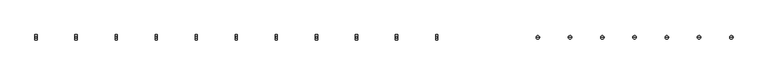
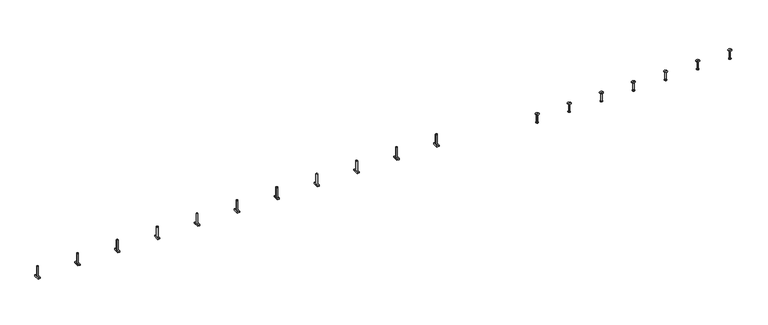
"""IFC4 building model written with IfcOpenShell, lengths in millimetres: fastener geometry, JTA-W JORDAHL® AnchorChannels : JTA-W L=6000 mm."""

from ifc_helpers import new_model, si_unit, frame, origin, place, context, project, spatial, polyline, circle_curve, source, transform, mapped, element, save
from ifc_brep_helpers import plane_surface, cylinder_surface, revolved_surface, advanced_brep


def fastener_32b4dd40(model_context):
    return source(origin(), model_context, "Body", "AdvancedBrep", [
        advanced_brep(
        [(3470.3421053, -20.7, -4.0), (3470.3421053, -20.7, -14.0), (3470.3421053, 20.7, -14.0), (3470.3421053, 20.7, -4.0), (3453.3421053, -20.7, -4.0), (3453.3421053, 20.7, -4.0), (3453.3421053, 20.7, -14.0), (3453.3421053, -20.7, -14.0), (3467.8421053, 0.0, -4.0), (3455.8421053, 0.0, -4.0), (3455.8421053, 0.0, 76.0), (3467.8421053, 0.0, 76.0)],
        [
            (0, 1),
            (1, 2),
            (2, 3),
            (3, 0),
            (4, 5),
            (5, 6),
            (6, 7),
            (7, 4),
            (3, 5),
            (4, 0),
            (8, 9, circle_curve(frame((3461.8421053, 0.0, -4.0), z_axis=(0.0, 0.0, -1.0), x_axis=(1.0, 0.0, 0.0)), 6.0)),
            (9, 8, circle_curve(frame((3461.8421053, 0.0, -4.0), z_axis=(0.0, 0.0, -1.0), x_axis=(1.0, 0.0, 0.0)), 6.0)),
            (2, 6),
            (1, 7),
            (10, 11, circle_curve(frame((3461.8421053, 0.0, 76.0), z_axis=(0.0, 0.0, 1.0), x_axis=(1.0, 0.0, 0.0)), 6.0)),
            (11, 10, circle_curve(frame((3461.8421053, 0.0, 76.0), z_axis=(0.0, 0.0, 1.0), x_axis=(1.0, 0.0, 0.0)), 6.0)),
            (11, 8),
            (9, 10),
        ],
        [
            plane_surface(frame((3470.3421053, 20.7, -4.0), z_axis=(1.0, 0.0, 0.0), x_axis=(0.0, 1.0, 0.0))),
            plane_surface(frame((3453.3421053, 20.7, -4.0), z_axis=(-1.0, 0.0, 0.0), x_axis=(0.0, -1.0, 0.0))),
            plane_surface(frame((3470.3421053, -20.7, -4.0), z_axis=(0.0, 0.0, 1.0), x_axis=(-1.0, 0.0, 0.0))),
            plane_surface(frame((3470.3421053, 20.7, -4.0), z_axis=(0.0, 1.0, 0.0), x_axis=(-1.0, 0.0, 0.0))),
            plane_surface(frame((3470.3421053, 20.7, -14.0), z_axis=(0.0, 0.0, -1.0), x_axis=(-1.0, 0.0, 0.0))),
            plane_surface(frame((3470.3421053, -20.7, -14.0), z_axis=(0.0, -1.0, 0.0), x_axis=(-1.0, 0.0, 0.0))),
            plane_surface(frame((3467.8421053, 0.0, 76.0), z_axis=(0.0, 0.0, 1.0), x_axis=(0.0, -1.0, 0.0))),
            cylinder_surface(frame((3461.8421053, 0.0, -4.0), z_axis=(0.0, 0.0, 1.0), x_axis=(1.0, 0.0, 0.0)), 6.0),
        ],
        [
            (0, [[1, 2, 3, 4]]),
            (1, [[5, 6, 7, 8]]),
            (2, [[9, -5, 10, -4], [11, 12]]),
            (3, [[13, -6, -9, -3]]),
            (4, [[14, -7, -13, -2]]),
            (5, [[-10, -8, -14, -1]]),
            (6, [[15, 16]]),
            (7, [[17, -12, 18, -16]]),
            (7, [[-18, -11, -17, -15]]),
        ],
    ),
        advanced_brep(
        [(3162.4473684, -20.7, -4.0), (3162.4473684, -20.7, -14.0), (3162.4473684, 20.7, -14.0), (3162.4473684, 20.7, -4.0), (3145.4473684, -20.7, -4.0), (3145.4473684, 20.7, -4.0), (3145.4473684, 20.7, -14.0), (3145.4473684, -20.7, -14.0), (3159.9473684, 0.0, -4.0), (3147.9473684, 0.0, -4.0), (3147.9473684, 0.0, 76.0), (3159.9473684, 0.0, 76.0)],
        [
            (0, 1),
            (1, 2),
            (2, 3),
            (3, 0),
            (4, 5),
            (5, 6),
            (6, 7),
            (7, 4),
            (3, 5),
            (4, 0),
            (8, 9, circle_curve(frame((3153.9473684, 0.0, -4.0), z_axis=(0.0, 0.0, -1.0), x_axis=(1.0, 0.0, 0.0)), 6.0)),
            (9, 8, circle_curve(frame((3153.9473684, 0.0, -4.0), z_axis=(0.0, 0.0, -1.0), x_axis=(1.0, 0.0, 0.0)), 6.0)),
            (2, 6),
            (1, 7),
            (10, 11, circle_curve(frame((3153.9473684, 0.0, 76.0), z_axis=(0.0, 0.0, 1.0), x_axis=(1.0, 0.0, 0.0)), 6.0)),
            (11, 10, circle_curve(frame((3153.9473684, 0.0, 76.0), z_axis=(0.0, 0.0, 1.0), x_axis=(1.0, 0.0, 0.0)), 6.0)),
            (11, 8),
            (9, 10),
        ],
        [
            plane_surface(frame((3162.4473684, 20.7, -4.0), z_axis=(1.0, 0.0, 0.0), x_axis=(0.0, 1.0, 0.0))),
            plane_surface(frame((3145.4473684, 20.7, -4.0), z_axis=(-1.0, 0.0, 0.0), x_axis=(0.0, -1.0, 0.0))),
            plane_surface(frame((3162.4473684, -20.7, -4.0), z_axis=(0.0, 0.0, 1.0), x_axis=(-1.0, 0.0, 0.0))),
            plane_surface(frame((3162.4473684, 20.7, -4.0), z_axis=(0.0, 1.0, 0.0), x_axis=(-1.0, 0.0, 0.0))),
            plane_surface(frame((3162.4473684, 20.7, -14.0), z_axis=(0.0, 0.0, -1.0), x_axis=(-1.0, 0.0, 0.0))),
            plane_surface(frame((3162.4473684, -20.7, -14.0), z_axis=(0.0, -1.0, 0.0), x_axis=(-1.0, 0.0, 0.0))),
            plane_surface(frame((3159.9473684, 0.0, 76.0), z_axis=(0.0, 0.0, 1.0), x_axis=(0.0, -1.0, 0.0))),
            cylinder_surface(frame((3153.9473684, 0.0, -4.0), z_axis=(0.0, 0.0, 1.0), x_axis=(1.0, 0.0, 0.0)), 6.0),
        ],
        [
            (0, [[1, 2, 3, 4]]),
            (1, [[5, 6, 7, 8]]),
            (2, [[9, -5, 10, -4], [11, 12]]),
            (3, [[13, -6, -9, -3]]),
            (4, [[14, -7, -13, -2]]),
            (5, [[-10, -8, -14, -1]]),
            (6, [[15, 16]]),
            (7, [[17, -12, 18, -16]]),
            (7, [[-18, -11, -17, -15]]),
        ],
    ),
        advanced_brep(
        [(2854.5526316, -20.7, -4.0), (2854.5526316, -20.7, -14.0), (2854.5526316, 20.7, -14.0), (2854.5526316, 20.7, -4.0), (2837.5526316, -20.7, -4.0), (2837.5526316, 20.7, -4.0), (2837.5526316, 20.7, -14.0), (2837.5526316, -20.7, -14.0), (2852.0526316, 0.0, -4.0), (2840.0526316, 0.0, -4.0), (2840.0526316, 0.0, 76.0), (2852.0526316, 0.0, 76.0)],
        [
            (0, 1),
            (1, 2),
            (2, 3),
            (3, 0),
            (4, 5),
            (5, 6),
            (6, 7),
            (7, 4),
            (3, 5),
            (4, 0),
            (8, 9, circle_curve(frame((2846.0526316, 0.0, -4.0), z_axis=(0.0, 0.0, -1.0), x_axis=(1.0, 0.0, 0.0)), 6.0)),
            (9, 8, circle_curve(frame((2846.0526316, 0.0, -4.0), z_axis=(0.0, 0.0, -1.0), x_axis=(1.0, 0.0, 0.0)), 6.0)),
            (2, 6),
            (1, 7),
            (10, 11, circle_curve(frame((2846.0526316, 0.0, 76.0), z_axis=(0.0, 0.0, 1.0), x_axis=(1.0, 0.0, 0.0)), 6.0)),
            (11, 10, circle_curve(frame((2846.0526316, 0.0, 76.0), z_axis=(0.0, 0.0, 1.0), x_axis=(1.0, 0.0, 0.0)), 6.0)),
            (11, 8),
            (9, 10),
        ],
        [
            plane_surface(frame((2854.5526316, 20.7, -4.0), z_axis=(1.0, 0.0, 0.0), x_axis=(0.0, 1.0, 0.0))),
            plane_surface(frame((2837.5526316, 20.7, -4.0), z_axis=(-1.0, 0.0, 0.0), x_axis=(0.0, -1.0, 0.0))),
            plane_surface(frame((2854.5526316, -20.7, -4.0), z_axis=(0.0, 0.0, 1.0), x_axis=(-1.0, 0.0, 0.0))),
            plane_surface(frame((2854.5526316, 20.7, -4.0), z_axis=(0.0, 1.0, 0.0), x_axis=(-1.0, 0.0, 0.0))),
            plane_surface(frame((2854.5526316, 20.7, -14.0), z_axis=(0.0, 0.0, -1.0), x_axis=(-1.0, 0.0, 0.0))),
            plane_surface(frame((2854.5526316, -20.7, -14.0), z_axis=(0.0, -1.0, 0.0), x_axis=(-1.0, 0.0, 0.0))),
            plane_surface(frame((2852.0526316, 0.0, 76.0), z_axis=(0.0, 0.0, 1.0), x_axis=(0.0, -1.0, 0.0))),
            cylinder_surface(frame((2846.0526316, 0.0, -4.0), z_axis=(0.0, 0.0, 1.0), x_axis=(1.0, 0.0, 0.0)), 6.0),
        ],
        [
            (0, [[1, 2, 3, 4]]),
            (1, [[5, 6, 7, 8]]),
            (2, [[9, -5, 10, -4], [11, 12]]),
            (3, [[13, -6, -9, -3]]),
            (4, [[14, -7, -13, -2]]),
            (5, [[-10, -8, -14, -1]]),
            (6, [[15, 16]]),
            (7, [[17, -12, 18, -16]]),
            (7, [[-18, -11, -17, -15]]),
        ],
    ),
        advanced_brep(
        [(2546.6578947, -20.7, -4.0), (2546.6578947, -20.7, -14.0), (2546.6578947, 20.7, -14.0), (2546.6578947, 20.7, -4.0), (2529.6578947, -20.7, -4.0), (2529.6578947, 20.7, -4.0), (2529.6578947, 20.7, -14.0), (2529.6578947, -20.7, -14.0), (2544.1578947, 0.0, -4.0), (2532.1578947, 0.0, -4.0), (2532.1578947, 0.0, 76.0), (2544.1578947, 0.0, 76.0)],
        [
            (0, 1),
            (1, 2),
            (2, 3),
            (3, 0),
            (4, 5),
            (5, 6),
            (6, 7),
            (7, 4),
            (3, 5),
            (4, 0),
            (8, 9, circle_curve(frame((2538.1578947, 0.0, -4.0), z_axis=(0.0, 0.0, -1.0), x_axis=(1.0, 0.0, 0.0)), 6.0)),
            (9, 8, circle_curve(frame((2538.1578947, 0.0, -4.0), z_axis=(0.0, 0.0, -1.0), x_axis=(1.0, 0.0, 0.0)), 6.0)),
            (2, 6),
            (1, 7),
            (10, 11, circle_curve(frame((2538.1578947, 0.0, 76.0), z_axis=(0.0, 0.0, 1.0), x_axis=(1.0, 0.0, 0.0)), 6.0)),
            (11, 10, circle_curve(frame((2538.1578947, 0.0, 76.0), z_axis=(0.0, 0.0, 1.0), x_axis=(1.0, 0.0, 0.0)), 6.0)),
            (11, 8),
            (9, 10),
        ],
        [
            plane_surface(frame((2546.6578947, 20.7, -4.0), z_axis=(1.0, 0.0, 0.0), x_axis=(0.0, 1.0, 0.0))),
            plane_surface(frame((2529.6578947, 20.7, -4.0), z_axis=(-1.0, 0.0, 0.0), x_axis=(0.0, -1.0, 0.0))),
            plane_surface(frame((2546.6578947, -20.7, -4.0), z_axis=(0.0, 0.0, 1.0), x_axis=(-1.0, 0.0, 0.0))),
            plane_surface(frame((2546.6578947, 20.7, -4.0), z_axis=(0.0, 1.0, 0.0), x_axis=(-1.0, 0.0, 0.0))),
            plane_surface(frame((2546.6578947, 20.7, -14.0), z_axis=(0.0, 0.0, -1.0), x_axis=(-1.0, 0.0, 0.0))),
            plane_surface(frame((2546.6578947, -20.7, -14.0), z_axis=(0.0, -1.0, 0.0), x_axis=(-1.0, 0.0, 0.0))),
            plane_surface(frame((2544.1578947, 0.0, 76.0), z_axis=(0.0, 0.0, 1.0), x_axis=(0.0, -1.0, 0.0))),
            cylinder_surface(frame((2538.1578947, 0.0, -4.0), z_axis=(0.0, 0.0, 1.0), x_axis=(1.0, 0.0, 0.0)), 6.0),
        ],
        [
            (0, [[1, 2, 3, 4]]),
            (1, [[5, 6, 7, 8]]),
            (2, [[9, -5, 10, -4], [11, 12]]),
            (3, [[13, -6, -9, -3]]),
            (4, [[14, -7, -13, -2]]),
            (5, [[-10, -8, -14, -1]]),
            (6, [[15, 16]]),
            (7, [[17, -12, 18, -16]]),
            (7, [[-18, -11, -17, -15]]),
        ],
    ),
        advanced_brep(
        [(2238.7631579, -20.7, -4.0), (2238.7631579, -20.7, -14.0), (2238.7631579, 20.7, -14.0), (2238.7631579, 20.7, -4.0), (2221.7631579, -20.7, -4.0), (2221.7631579, 20.7, -4.0), (2221.7631579, 20.7, -14.0), (2221.7631579, -20.7, -14.0), (2236.2631579, 0.0, -4.0), (2224.2631579, 0.0, -4.0), (2224.2631579, 0.0, 76.0), (2236.2631579, 0.0, 76.0)],
        [
            (0, 1),
            (1, 2),
            (2, 3),
            (3, 0),
            (4, 5),
            (5, 6),
            (6, 7),
            (7, 4),
            (3, 5),
            (4, 0),
            (8, 9, circle_curve(frame((2230.2631579, 0.0, -4.0), z_axis=(0.0, 0.0, -1.0), x_axis=(1.0, 0.0, 0.0)), 6.0)),
            (9, 8, circle_curve(frame((2230.2631579, 0.0, -4.0), z_axis=(0.0, 0.0, -1.0), x_axis=(1.0, 0.0, 0.0)), 6.0)),
            (2, 6),
            (1, 7),
            (10, 11, circle_curve(frame((2230.2631579, 0.0, 76.0), z_axis=(0.0, 0.0, 1.0), x_axis=(1.0, 0.0, 0.0)), 6.0)),
            (11, 10, circle_curve(frame((2230.2631579, 0.0, 76.0), z_axis=(0.0, 0.0, 1.0), x_axis=(1.0, 0.0, 0.0)), 6.0)),
            (11, 8),
            (9, 10),
        ],
        [
            plane_surface(frame((2238.7631579, 20.7, -4.0), z_axis=(1.0, 0.0, 0.0), x_axis=(0.0, 1.0, 0.0))),
            plane_surface(frame((2221.7631579, 20.7, -4.0), z_axis=(-1.0, 0.0, 0.0), x_axis=(0.0, -1.0, 0.0))),
            plane_surface(frame((2238.7631579, -20.7, -4.0), z_axis=(0.0, 0.0, 1.0), x_axis=(-1.0, 0.0, 0.0))),
            plane_surface(frame((2238.7631579, 20.7, -4.0), z_axis=(0.0, 1.0, 0.0), x_axis=(-1.0, 0.0, 0.0))),
            plane_surface(frame((2238.7631579, 20.7, -14.0), z_axis=(0.0, 0.0, -1.0), x_axis=(-1.0, 0.0, 0.0))),
            plane_surface(frame((2238.7631579, -20.7, -14.0), z_axis=(0.0, -1.0, 0.0), x_axis=(-1.0, 0.0, 0.0))),
            plane_surface(frame((2236.2631579, 0.0, 76.0), z_axis=(0.0, 0.0, 1.0), x_axis=(0.0, -1.0, 0.0))),
            cylinder_surface(frame((2230.2631579, 0.0, -4.0), z_axis=(0.0, 0.0, 1.0), x_axis=(1.0, 0.0, 0.0)), 6.0),
        ],
        [
            (0, [[1, 2, 3, 4]]),
            (1, [[5, 6, 7, 8]]),
            (2, [[9, -5, 10, -4], [11, 12]]),
            (3, [[13, -6, -9, -3]]),
            (4, [[14, -7, -13, -2]]),
            (5, [[-10, -8, -14, -1]]),
            (6, [[15, 16]]),
            (7, [[17, -12, 18, -16]]),
            (7, [[-18, -11, -17, -15]]),
        ],
    ),
        advanced_brep(
        [(1930.8684211, -20.7, -4.0), (1930.8684211, -20.7, -14.0), (1930.8684211, 20.7, -14.0), (1930.8684211, 20.7, -4.0), (1913.8684211, -20.7, -4.0), (1913.8684211, 20.7, -4.0), (1913.8684211, 20.7, -14.0), (1913.8684211, -20.7, -14.0), (1928.3684211, 0.0, -4.0), (1916.3684211, 0.0, -4.0), (1916.3684211, 0.0, 76.0), (1928.3684211, 0.0, 76.0)],
        [
            (0, 1),
            (1, 2),
            (2, 3),
            (3, 0),
            (4, 5),
            (5, 6),
            (6, 7),
            (7, 4),
            (3, 5),
            (4, 0),
            (8, 9, circle_curve(frame((1922.3684211, 0.0, -4.0), z_axis=(0.0, 0.0, -1.0), x_axis=(1.0, 0.0, 0.0)), 6.0)),
            (9, 8, circle_curve(frame((1922.3684211, 0.0, -4.0), z_axis=(0.0, 0.0, -1.0), x_axis=(1.0, 0.0, 0.0)), 6.0)),
            (2, 6),
            (1, 7),
            (10, 11, circle_curve(frame((1922.3684211, 0.0, 76.0), z_axis=(0.0, 0.0, 1.0), x_axis=(1.0, 0.0, 0.0)), 6.0)),
            (11, 10, circle_curve(frame((1922.3684211, 0.0, 76.0), z_axis=(0.0, 0.0, 1.0), x_axis=(1.0, 0.0, 0.0)), 6.0)),
            (11, 8),
            (9, 10),
        ],
        [
            plane_surface(frame((1930.8684211, 20.7, -4.0), z_axis=(1.0, 0.0, 0.0), x_axis=(0.0, 1.0, 0.0))),
            plane_surface(frame((1913.8684211, 20.7, -4.0), z_axis=(-1.0, 0.0, 0.0), x_axis=(0.0, -1.0, 0.0))),
            plane_surface(frame((1930.8684211, -20.7, -4.0), z_axis=(0.0, 0.0, 1.0), x_axis=(-1.0, 0.0, 0.0))),
            plane_surface(frame((1930.8684211, 20.7, -4.0), z_axis=(0.0, 1.0, 0.0), x_axis=(-1.0, 0.0, 0.0))),
            plane_surface(frame((1930.8684211, 20.7, -14.0), z_axis=(0.0, 0.0, -1.0), x_axis=(-1.0, 0.0, 0.0))),
            plane_surface(frame((1930.8684211, -20.7, -14.0), z_axis=(0.0, -1.0, 0.0), x_axis=(-1.0, 0.0, 0.0))),
            plane_surface(frame((1928.3684211, 0.0, 76.0), z_axis=(0.0, 0.0, 1.0), x_axis=(0.0, -1.0, 0.0))),
            cylinder_surface(frame((1922.3684211, 0.0, -4.0), z_axis=(0.0, 0.0, 1.0), x_axis=(1.0, 0.0, 0.0)), 6.0),
        ],
        [
            (0, [[1, 2, 3, 4]]),
            (1, [[5, 6, 7, 8]]),
            (2, [[9, -5, 10, -4], [11, 12]]),
            (3, [[13, -6, -9, -3]]),
            (4, [[14, -7, -13, -2]]),
            (5, [[-10, -8, -14, -1]]),
            (6, [[15, 16]]),
            (7, [[17, -12, 18, -16]]),
            (7, [[-18, -11, -17, -15]]),
        ],
    ),
        advanced_brep(
        [(1622.9736842, -20.7, -4.0), (1622.9736842, -20.7, -14.0), (1622.9736842, 20.7, -14.0), (1622.9736842, 20.7, -4.0), (1605.9736842, -20.7, -4.0), (1605.9736842, 20.7, -4.0), (1605.9736842, 20.7, -14.0), (1605.9736842, -20.7, -14.0), (1620.4736842, 0.0, -4.0), (1608.4736842, 0.0, -4.0), (1608.4736842, 0.0, 76.0), (1620.4736842, 0.0, 76.0)],
        [
            (0, 1),
            (1, 2),
            (2, 3),
            (3, 0),
            (4, 5),
            (5, 6),
            (6, 7),
            (7, 4),
            (3, 5),
            (4, 0),
            (8, 9, circle_curve(frame((1614.4736842, 0.0, -4.0), z_axis=(0.0, 0.0, -1.0), x_axis=(1.0, 0.0, 0.0)), 6.0)),
            (9, 8, circle_curve(frame((1614.4736842, 0.0, -4.0), z_axis=(0.0, 0.0, -1.0), x_axis=(1.0, 0.0, 0.0)), 6.0)),
            (2, 6),
            (1, 7),
            (10, 11, circle_curve(frame((1614.4736842, 0.0, 76.0), z_axis=(0.0, 0.0, 1.0), x_axis=(1.0, 0.0, 0.0)), 6.0)),
            (11, 10, circle_curve(frame((1614.4736842, 0.0, 76.0), z_axis=(0.0, 0.0, 1.0), x_axis=(1.0, 0.0, 0.0)), 6.0)),
            (11, 8),
            (9, 10),
        ],
        [
            plane_surface(frame((1622.9736842, 20.7, -4.0), z_axis=(1.0, 0.0, 0.0), x_axis=(0.0, 1.0, 0.0))),
            plane_surface(frame((1605.9736842, 20.7, -4.0), z_axis=(-1.0, 0.0, 0.0), x_axis=(0.0, -1.0, 0.0))),
            plane_surface(frame((1622.9736842, -20.7, -4.0), z_axis=(0.0, 0.0, 1.0), x_axis=(-1.0, 0.0, 0.0))),
            plane_surface(frame((1622.9736842, 20.7, -4.0), z_axis=(0.0, 1.0, 0.0), x_axis=(-1.0, 0.0, 0.0))),
            plane_surface(frame((1622.9736842, 20.7, -14.0), z_axis=(0.0, 0.0, -1.0), x_axis=(-1.0, 0.0, 0.0))),
            plane_surface(frame((1622.9736842, -20.7, -14.0), z_axis=(0.0, -1.0, 0.0), x_axis=(-1.0, 0.0, 0.0))),
            plane_surface(frame((1620.4736842, 0.0, 76.0), z_axis=(0.0, 0.0, 1.0), x_axis=(0.0, -1.0, 0.0))),
            cylinder_surface(frame((1614.4736842, 0.0, -4.0), z_axis=(0.0, 0.0, 1.0), x_axis=(1.0, 0.0, 0.0)), 6.0),
        ],
        [
            (0, [[1, 2, 3, 4]]),
            (1, [[5, 6, 7, 8]]),
            (2, [[9, -5, 10, -4], [11, 12]]),
            (3, [[13, -6, -9, -3]]),
            (4, [[14, -7, -13, -2]]),
            (5, [[-10, -8, -14, -1]]),
            (6, [[15, 16]]),
            (7, [[17, -12, 18, -16]]),
            (7, [[-18, -11, -17, -15]]),
        ],
    ),
        advanced_brep(
        [(1315.0789474, -20.7, -4.0), (1315.0789474, -20.7, -14.0), (1315.0789474, 20.7, -14.0), (1315.0789474, 20.7, -4.0), (1298.0789474, -20.7, -4.0), (1298.0789474, 20.7, -4.0), (1298.0789474, 20.7, -14.0), (1298.0789474, -20.7, -14.0), (1312.5789474, 0.0, -4.0), (1300.5789474, 0.0, -4.0), (1300.5789474, 0.0, 76.0), (1312.5789474, 0.0, 76.0)],
        [
            (0, 1),
            (1, 2),
            (2, 3),
            (3, 0),
            (4, 5),
            (5, 6),
            (6, 7),
            (7, 4),
            (3, 5),
            (4, 0),
            (8, 9, circle_curve(frame((1306.5789474, 0.0, -4.0), z_axis=(0.0, 0.0, -1.0), x_axis=(1.0, 0.0, 0.0)), 6.0)),
            (9, 8, circle_curve(frame((1306.5789474, 0.0, -4.0), z_axis=(0.0, 0.0, -1.0), x_axis=(1.0, 0.0, 0.0)), 6.0)),
            (2, 6),
            (1, 7),
            (10, 11, circle_curve(frame((1306.5789474, 0.0, 76.0), z_axis=(0.0, 0.0, 1.0), x_axis=(1.0, 0.0, 0.0)), 6.0)),
            (11, 10, circle_curve(frame((1306.5789474, 0.0, 76.0), z_axis=(0.0, 0.0, 1.0), x_axis=(1.0, 0.0, 0.0)), 6.0)),
            (11, 8),
            (9, 10),
        ],
        [
            plane_surface(frame((1315.0789474, 20.7, -4.0), z_axis=(1.0, 0.0, 0.0), x_axis=(0.0, 1.0, 0.0))),
            plane_surface(frame((1298.0789474, 20.7, -4.0), z_axis=(-1.0, 0.0, 0.0), x_axis=(0.0, -1.0, 0.0))),
            plane_surface(frame((1315.0789474, -20.7, -4.0), z_axis=(0.0, 0.0, 1.0), x_axis=(-1.0, 0.0, 0.0))),
            plane_surface(frame((1315.0789474, 20.7, -4.0), z_axis=(0.0, 1.0, 0.0), x_axis=(-1.0, 0.0, 0.0))),
            plane_surface(frame((1315.0789474, 20.7, -14.0), z_axis=(0.0, 0.0, -1.0), x_axis=(-1.0, 0.0, 0.0))),
            plane_surface(frame((1315.0789474, -20.7, -14.0), z_axis=(0.0, -1.0, 0.0), x_axis=(-1.0, 0.0, 0.0))),
            plane_surface(frame((1312.5789474, 0.0, 76.0), z_axis=(0.0, 0.0, 1.0), x_axis=(0.0, -1.0, 0.0))),
            cylinder_surface(frame((1306.5789474, 0.0, -4.0), z_axis=(0.0, 0.0, 1.0), x_axis=(1.0, 0.0, 0.0)), 6.0),
        ],
        [
            (0, [[1, 2, 3, 4]]),
            (1, [[5, 6, 7, 8]]),
            (2, [[9, -5, 10, -4], [11, 12]]),
            (3, [[13, -6, -9, -3]]),
            (4, [[14, -7, -13, -2]]),
            (5, [[-10, -8, -14, -1]]),
            (6, [[15, 16]]),
            (7, [[17, -12, 18, -16]]),
            (7, [[-18, -11, -17, -15]]),
        ],
    ),
        advanced_brep(
        [(1007.1842105, -20.7, -4.0), (1007.1842105, -20.7, -14.0), (1007.1842105, 20.7, -14.0), (1007.1842105, 20.7, -4.0), (990.1842105, -20.7, -4.0), (990.1842105, 20.7, -4.0), (990.1842105, 20.7, -14.0), (990.1842105, -20.7, -14.0), (1004.6842105, 0.0, -4.0), (992.6842105, 0.0, -4.0), (992.6842105, 0.0, 76.0), (1004.6842105, 0.0, 76.0)],
        [
            (0, 1),
            (1, 2),
            (2, 3),
            (3, 0),
            (4, 5),
            (5, 6),
            (6, 7),
            (7, 4),
            (3, 5),
            (4, 0),
            (8, 9, circle_curve(frame((998.6842105, 0.0, -4.0), z_axis=(0.0, 0.0, -1.0), x_axis=(1.0, 0.0, 0.0)), 6.0)),
            (9, 8, circle_curve(frame((998.6842105, 0.0, -4.0), z_axis=(0.0, 0.0, -1.0), x_axis=(1.0, 0.0, 0.0)), 6.0)),
            (2, 6),
            (1, 7),
            (10, 11, circle_curve(frame((998.6842105, 0.0, 76.0), z_axis=(0.0, 0.0, 1.0), x_axis=(1.0, 0.0, 0.0)), 6.0)),
            (11, 10, circle_curve(frame((998.6842105, 0.0, 76.0), z_axis=(0.0, 0.0, 1.0), x_axis=(1.0, 0.0, 0.0)), 6.0)),
            (11, 8),
            (9, 10),
        ],
        [
            plane_surface(frame((1007.1842105, 20.7, -4.0), z_axis=(1.0, 0.0, 0.0), x_axis=(0.0, 1.0, 0.0))),
            plane_surface(frame((990.1842105, 20.7, -4.0), z_axis=(-1.0, 0.0, 0.0), x_axis=(0.0, -1.0, 0.0))),
            plane_surface(frame((1007.1842105, -20.7, -4.0), z_axis=(0.0, 0.0, 1.0), x_axis=(-1.0, 0.0, 0.0))),
            plane_surface(frame((1007.1842105, 20.7, -4.0), z_axis=(0.0, 1.0, 0.0), x_axis=(-1.0, 0.0, 0.0))),
            plane_surface(frame((1007.1842105, 20.7, -14.0), z_axis=(0.0, 0.0, -1.0), x_axis=(-1.0, 0.0, 0.0))),
            plane_surface(frame((1007.1842105, -20.7, -14.0), z_axis=(0.0, -1.0, 0.0), x_axis=(-1.0, 0.0, 0.0))),
            plane_surface(frame((1004.6842105, 0.0, 76.0), z_axis=(0.0, 0.0, 1.0), x_axis=(0.0, -1.0, 0.0))),
            cylinder_surface(frame((998.6842105, 0.0, -4.0), z_axis=(0.0, 0.0, 1.0), x_axis=(1.0, 0.0, 0.0)), 6.0),
        ],
        [
            (0, [[1, 2, 3, 4]]),
            (1, [[5, 6, 7, 8]]),
            (2, [[9, -5, 10, -4], [11, 12]]),
            (3, [[13, -6, -9, -3]]),
            (4, [[14, -7, -13, -2]]),
            (5, [[-10, -8, -14, -1]]),
            (6, [[15, 16]]),
            (7, [[17, -12, 18, -16]]),
            (7, [[-18, -11, -17, -15]]),
        ],
    ),
        advanced_brep(
        [(699.2894737, -20.7, -4.0), (699.2894737, -20.7, -14.0), (699.2894737, 20.7, -14.0), (699.2894737, 20.7, -4.0), (682.2894737, -20.7, -4.0), (682.2894737, 20.7, -4.0), (682.2894737, 20.7, -14.0), (682.2894737, -20.7, -14.0), (696.7894737, 0.0, -4.0), (684.7894737, 0.0, -4.0), (684.7894737, 0.0, 76.0), (696.7894737, 0.0, 76.0)],
        [
            (0, 1),
            (1, 2),
            (2, 3),
            (3, 0),
            (4, 5),
            (5, 6),
            (6, 7),
            (7, 4),
            (3, 5),
            (4, 0),
            (8, 9, circle_curve(frame((690.7894737, 0.0, -4.0), z_axis=(0.0, 0.0, -1.0), x_axis=(1.0, 0.0, 0.0)), 6.0)),
            (9, 8, circle_curve(frame((690.7894737, 0.0, -4.0), z_axis=(0.0, 0.0, -1.0), x_axis=(1.0, 0.0, 0.0)), 6.0)),
            (2, 6),
            (1, 7),
            (10, 11, circle_curve(frame((690.7894737, 0.0, 76.0), z_axis=(0.0, 0.0, 1.0), x_axis=(1.0, 0.0, 0.0)), 6.0)),
            (11, 10, circle_curve(frame((690.7894737, 0.0, 76.0), z_axis=(0.0, 0.0, 1.0), x_axis=(1.0, 0.0, 0.0)), 6.0)),
            (11, 8),
            (9, 10),
        ],
        [
            plane_surface(frame((699.2894737, 20.7, -4.0), z_axis=(1.0, 0.0, 0.0), x_axis=(0.0, 1.0, 0.0))),
            plane_surface(frame((682.2894737, 20.7, -4.0), z_axis=(-1.0, 0.0, 0.0), x_axis=(0.0, -1.0, 0.0))),
            plane_surface(frame((699.2894737, -20.7, -4.0), z_axis=(0.0, 0.0, 1.0), x_axis=(-1.0, 0.0, 0.0))),
            plane_surface(frame((699.2894737, 20.7, -4.0), z_axis=(0.0, 1.0, 0.0), x_axis=(-1.0, 0.0, 0.0))),
            plane_surface(frame((699.2894737, 20.7, -14.0), z_axis=(0.0, 0.0, -1.0), x_axis=(-1.0, 0.0, 0.0))),
            plane_surface(frame((699.2894737, -20.7, -14.0), z_axis=(0.0, -1.0, 0.0), x_axis=(-1.0, 0.0, 0.0))),
            plane_surface(frame((696.7894737, 0.0, 76.0), z_axis=(0.0, 0.0, 1.0), x_axis=(0.0, -1.0, 0.0))),
            cylinder_surface(frame((690.7894737, 0.0, -4.0), z_axis=(0.0, 0.0, 1.0), x_axis=(1.0, 0.0, 0.0)), 6.0),
        ],
        [
            (0, [[1, 2, 3, 4]]),
            (1, [[5, 6, 7, 8]]),
            (2, [[9, -5, 10, -4], [11, 12]]),
            (3, [[13, -6, -9, -3]]),
            (4, [[14, -7, -13, -2]]),
            (5, [[-10, -8, -14, -1]]),
            (6, [[15, 16]]),
            (7, [[17, -12, 18, -16]]),
            (7, [[-18, -11, -17, -15]]),
        ],
    ),
        advanced_brep(
        [(391.3947368, -20.7, -4.0), (391.3947368, -20.7, -14.0), (391.3947368, 20.7, -14.0), (391.3947368, 20.7, -4.0), (374.3947368, -20.7, -4.0), (374.3947368, 20.7, -4.0), (374.3947368, 20.7, -14.0), (374.3947368, -20.7, -14.0), (388.8947368, 0.0, -4.0), (376.8947368, 0.0, -4.0), (376.8947368, 0.0, 76.0), (388.8947368, 0.0, 76.0)],
        [
            (0, 1),
            (1, 2),
            (2, 3),
            (3, 0),
            (4, 5),
            (5, 6),
            (6, 7),
            (7, 4),
            (3, 5),
            (4, 0),
            (8, 9, circle_curve(frame((382.8947368, 0.0, -4.0), z_axis=(0.0, 0.0, -1.0), x_axis=(1.0, 0.0, 0.0)), 6.0)),
            (9, 8, circle_curve(frame((382.8947368, 0.0, -4.0), z_axis=(0.0, 0.0, -1.0), x_axis=(1.0, 0.0, 0.0)), 6.0)),
            (2, 6),
            (1, 7),
            (10, 11, circle_curve(frame((382.8947368, 0.0, 76.0), z_axis=(0.0, 0.0, 1.0), x_axis=(1.0, 0.0, 0.0)), 6.0)),
            (11, 10, circle_curve(frame((382.8947368, 0.0, 76.0), z_axis=(0.0, 0.0, 1.0), x_axis=(1.0, 0.0, 0.0)), 6.0)),
            (11, 8),
            (9, 10),
        ],
        [
            plane_surface(frame((391.3947368, 20.7, -4.0), z_axis=(1.0, 0.0, 0.0), x_axis=(0.0, 1.0, 0.0))),
            plane_surface(frame((374.3947368, 20.7, -4.0), z_axis=(-1.0, 0.0, 0.0), x_axis=(0.0, -1.0, 0.0))),
            plane_surface(frame((391.3947368, -20.7, -4.0), z_axis=(0.0, 0.0, 1.0), x_axis=(-1.0, 0.0, 0.0))),
            plane_surface(frame((391.3947368, 20.7, -4.0), z_axis=(0.0, 1.0, 0.0), x_axis=(-1.0, 0.0, 0.0))),
            plane_surface(frame((391.3947368, 20.7, -14.0), z_axis=(0.0, 0.0, -1.0), x_axis=(-1.0, 0.0, 0.0))),
            plane_surface(frame((391.3947368, -20.7, -14.0), z_axis=(0.0, -1.0, 0.0), x_axis=(-1.0, 0.0, 0.0))),
            plane_surface(frame((388.8947368, 0.0, 76.0), z_axis=(0.0, 0.0, 1.0), x_axis=(0.0, -1.0, 0.0))),
            cylinder_surface(frame((382.8947368, 0.0, -4.0), z_axis=(0.0, 0.0, 1.0), x_axis=(1.0, 0.0, 0.0)), 6.0),
        ],
        [
            (0, [[1, 2, 3, 4]]),
            (1, [[5, 6, 7, 8]]),
            (2, [[9, -5, 10, -4], [11, 12]]),
            (3, [[13, -6, -9, -3]]),
            (4, [[14, -7, -13, -2]]),
            (5, [[-10, -8, -14, -1]]),
            (6, [[15, 16]]),
            (7, [[17, -12, 18, -16]]),
            (7, [[-18, -11, -17, -15]]),
        ],
    ),
        advanced_brep(
        [(5727.0833333, 0.0, -30.0), (5713.5833333, 0.0, -30.0), (5740.5833333, 0.0, -30.0), (5718.5833333, 0.0, -100.0), (5727.0833333, 0.0, -100.0), (5735.5833333, 0.0, -100.0), (5718.5833333, 0.0, -98.0), (5735.5833333, 0.0, -98.0), (5722.5833333, 0.0, -95.6905989), (5731.5833333, 0.0, -95.6905989), (5722.5833333, 0.0, -32.5), (5731.5833333, 0.0, -32.5)],
        [
            (0, 1),
            (1, 2, circle_curve(frame((5727.0833333, 0.0, -30.0), z_axis=(0.0, 0.0, 1.0), x_axis=(1.0, 0.0, 0.0)), 13.5)),
            (2, 0),
            (2, 1, circle_curve(frame((5727.0833333, 0.0, -30.0), z_axis=(0.0, 0.0, 1.0), x_axis=(1.0, 0.0, 0.0)), 13.5)),
            (3, 4),
            (4, 5),
            (5, 3, circle_curve(frame((5727.0833333, 0.0, -100.0), z_axis=(0.0, 0.0, -1.0), x_axis=(1.0, 0.0, 0.0)), 8.5)),
            (3, 5, circle_curve(frame((5727.0833333, 0.0, -100.0), z_axis=(0.0, 0.0, -1.0), x_axis=(1.0, 0.0, 0.0)), 8.5)),
            (6, 3),
            (5, 7),
            (7, 6, circle_curve(frame((5727.0833333, 0.0, -98.0), z_axis=(0.0, 0.0, -1.0), x_axis=(1.0, 0.0, 0.0)), 8.5)),
            (6, 7, circle_curve(frame((5727.0833333, 0.0, -98.0), z_axis=(0.0, 0.0, -1.0), x_axis=(1.0, 0.0, 0.0)), 8.5)),
            (8, 6),
            (7, 9),
            (9, 8, circle_curve(frame((5727.0833333, 0.0, -95.6905989), z_axis=(0.0, 0.0, -1.0), x_axis=(1.0, 0.0, 0.0)), 4.5)),
            (8, 9, circle_curve(frame((5727.0833333, 0.0, -95.6905989), z_axis=(0.0, 0.0, -1.0), x_axis=(1.0, 0.0, 0.0)), 4.5)),
            (10, 8),
            (9, 11),
            (11, 10, circle_curve(frame((5727.0833333, 0.0, -32.5), z_axis=(0.0, 0.0, -1.0), x_axis=(1.0, 0.0, 0.0)), 4.5)),
            (10, 11, circle_curve(frame((5727.0833333, 0.0, -32.5), z_axis=(0.0, 0.0, -1.0), x_axis=(1.0, 0.0, 0.0)), 4.5)),
            (1, 10),
            (11, 2),
        ],
        [
            plane_surface(frame((5727.0833333, 0.0, -30.0), z_axis=(0.0, 0.0, 1.0), x_axis=(1.0, 0.0, 0.0))),
            plane_surface(frame((5727.0833333, 0.0, -100.0), z_axis=(0.0, 0.0, -1.0), x_axis=(1.0, 0.0, 0.0))),
            cylinder_surface(frame((5727.0833333, 0.0, 2284.3150031), z_axis=(0.0, 0.0, 1.0), x_axis=(1.0, 0.0, 0.0)), 8.5),
            revolved_surface(polyline([(5735.5833333, 0.0, -98.0), (5731.5833333, 0.0, -95.6905989)]), (5727.0833333, 0.0, 2284.3150031), (0.0, 0.0, 1.0)),
            cylinder_surface(frame((5727.0833333, 0.0, 2284.3150031), z_axis=(0.0, 0.0, 1.0), x_axis=(1.0, 0.0, 0.0)), 4.5),
            revolved_surface(polyline([(5731.5833333, 0.0, -32.5), (5740.5833333, 0.0, -30.0)]), (5727.0833333, 0.0, 2284.3150031), (0.0, 0.0, 1.0)),
        ],
        [
            (0, [[1, 2, 3]]),
            (0, [[-3, 4, -1]]),
            (1, [[5, 6, 7]]),
            (1, [[-6, -5, 8]]),
            (2, [[9, -7, 10, 11]]),
            (2, [[-10, -8, -9, 12]]),
            (3, [[13, -11, 14, 15]]),
            (3, [[-14, -12, -13, 16]]),
            (4, [[17, -15, 18, 19]]),
            (4, [[-18, -16, -17, 20]]),
            (5, [[21, -19, 22, -2]]),
            (5, [[-22, -20, -21, -4]]),
        ],
    ),
        advanced_brep(
        [(5479.1666667, 0.0, -30.0), (5465.6666667, 0.0, -30.0), (5492.6666667, 0.0, -30.0), (5470.6666667, 0.0, -100.0), (5479.1666667, 0.0, -100.0), (5487.6666667, 0.0, -100.0), (5470.6666667, 0.0, -98.0), (5487.6666667, 0.0, -98.0), (5474.6666667, 0.0, -95.6905989), (5483.6666667, 0.0, -95.6905989), (5474.6666667, 0.0, -32.5), (5483.6666667, 0.0, -32.5)],
        [
            (0, 1),
            (1, 2, circle_curve(frame((5479.1666667, 0.0, -30.0), z_axis=(0.0, 0.0, 1.0), x_axis=(1.0, 0.0, 0.0)), 13.5)),
            (2, 0),
            (2, 1, circle_curve(frame((5479.1666667, 0.0, -30.0), z_axis=(0.0, 0.0, 1.0), x_axis=(1.0, 0.0, 0.0)), 13.5)),
            (3, 4),
            (4, 5),
            (5, 3, circle_curve(frame((5479.1666667, 0.0, -100.0), z_axis=(0.0, 0.0, -1.0), x_axis=(1.0, 0.0, 0.0)), 8.5)),
            (3, 5, circle_curve(frame((5479.1666667, 0.0, -100.0), z_axis=(0.0, 0.0, -1.0), x_axis=(1.0, 0.0, 0.0)), 8.5)),
            (6, 3),
            (5, 7),
            (7, 6, circle_curve(frame((5479.1666667, 0.0, -98.0), z_axis=(0.0, 0.0, -1.0), x_axis=(1.0, 0.0, 0.0)), 8.5)),
            (6, 7, circle_curve(frame((5479.1666667, 0.0, -98.0), z_axis=(0.0, 0.0, -1.0), x_axis=(1.0, 0.0, 0.0)), 8.5)),
            (8, 6),
            (7, 9),
            (9, 8, circle_curve(frame((5479.1666667, 0.0, -95.6905989), z_axis=(0.0, 0.0, -1.0), x_axis=(1.0, 0.0, 0.0)), 4.5)),
            (8, 9, circle_curve(frame((5479.1666667, 0.0, -95.6905989), z_axis=(0.0, 0.0, -1.0), x_axis=(1.0, 0.0, 0.0)), 4.5)),
            (10, 8),
            (9, 11),
            (11, 10, circle_curve(frame((5479.1666667, 0.0, -32.5), z_axis=(0.0, 0.0, -1.0), x_axis=(1.0, 0.0, 0.0)), 4.5)),
            (10, 11, circle_curve(frame((5479.1666667, 0.0, -32.5), z_axis=(0.0, 0.0, -1.0), x_axis=(1.0, 0.0, 0.0)), 4.5)),
            (1, 10),
            (11, 2),
        ],
        [
            plane_surface(frame((5479.1666667, 0.0, -30.0), z_axis=(0.0, 0.0, 1.0), x_axis=(1.0, 0.0, 0.0))),
            plane_surface(frame((5479.1666667, 0.0, -100.0), z_axis=(0.0, 0.0, -1.0), x_axis=(1.0, 0.0, 0.0))),
            cylinder_surface(frame((5479.1666667, 0.0, 2284.3150031), z_axis=(0.0, 0.0, 1.0), x_axis=(1.0, 0.0, 0.0)), 8.5),
            revolved_surface(polyline([(5487.6666667, 0.0, -98.0), (5483.6666667, 0.0, -95.6905989)]), (5479.1666667, 0.0, 2284.3150031), (0.0, 0.0, 1.0)),
            cylinder_surface(frame((5479.1666667, 0.0, 2284.3150031), z_axis=(0.0, 0.0, 1.0), x_axis=(1.0, 0.0, 0.0)), 4.5),
            revolved_surface(polyline([(5483.6666667, 0.0, -32.5), (5492.6666667, 0.0, -30.0)]), (5479.1666667, 0.0, 2284.3150031), (0.0, 0.0, 1.0)),
        ],
        [
            (0, [[1, 2, 3]]),
            (0, [[-3, 4, -1]]),
            (1, [[5, 6, 7]]),
            (1, [[-6, -5, 8]]),
            (2, [[9, -7, 10, 11]]),
            (2, [[-10, -8, -9, 12]]),
            (3, [[13, -11, 14, 15]]),
            (3, [[-14, -12, -13, 16]]),
            (4, [[17, -15, 18, 19]]),
            (4, [[-18, -16, -17, 20]]),
            (5, [[21, -19, 22, -2]]),
            (5, [[-22, -20, -21, -4]]),
        ],
    ),
        advanced_brep(
        [(5231.25, 0.0, -30.0), (5217.75, 0.0, -30.0), (5244.75, 0.0, -30.0), (5222.75, 0.0, -100.0), (5231.25, 0.0, -100.0), (5239.75, 0.0, -100.0), (5222.75, 0.0, -98.0), (5239.75, 0.0, -98.0), (5226.75, 0.0, -95.6905989), (5235.75, 0.0, -95.6905989), (5226.75, 0.0, -32.5), (5235.75, 0.0, -32.5)],
        [
            (0, 1),
            (1, 2, circle_curve(frame((5231.25, 0.0, -30.0), z_axis=(0.0, 0.0, 1.0), x_axis=(1.0, 0.0, 0.0)), 13.5)),
            (2, 0),
            (2, 1, circle_curve(frame((5231.25, 0.0, -30.0), z_axis=(0.0, 0.0, 1.0), x_axis=(1.0, 0.0, 0.0)), 13.5)),
            (3, 4),
            (4, 5),
            (5, 3, circle_curve(frame((5231.25, 0.0, -100.0), z_axis=(0.0, 0.0, -1.0), x_axis=(1.0, 0.0, 0.0)), 8.5)),
            (3, 5, circle_curve(frame((5231.25, 0.0, -100.0), z_axis=(0.0, 0.0, -1.0), x_axis=(1.0, 0.0, 0.0)), 8.5)),
            (6, 3),
            (5, 7),
            (7, 6, circle_curve(frame((5231.25, 0.0, -98.0), z_axis=(0.0, 0.0, -1.0), x_axis=(1.0, 0.0, 0.0)), 8.5)),
            (6, 7, circle_curve(frame((5231.25, 0.0, -98.0), z_axis=(0.0, 0.0, -1.0), x_axis=(1.0, 0.0, 0.0)), 8.5)),
            (8, 6),
            (7, 9),
            (9, 8, circle_curve(frame((5231.25, 0.0, -95.6905989), z_axis=(0.0, 0.0, -1.0), x_axis=(1.0, 0.0, 0.0)), 4.5)),
            (8, 9, circle_curve(frame((5231.25, 0.0, -95.6905989), z_axis=(0.0, 0.0, -1.0), x_axis=(1.0, 0.0, 0.0)), 4.5)),
            (10, 8),
            (9, 11),
            (11, 10, circle_curve(frame((5231.25, 0.0, -32.5), z_axis=(0.0, 0.0, -1.0), x_axis=(1.0, 0.0, 0.0)), 4.5)),
            (10, 11, circle_curve(frame((5231.25, 0.0, -32.5), z_axis=(0.0, 0.0, -1.0), x_axis=(1.0, 0.0, 0.0)), 4.5)),
            (1, 10),
            (11, 2),
        ],
        [
            plane_surface(frame((5231.25, 0.0, -30.0), z_axis=(0.0, 0.0, 1.0), x_axis=(1.0, 0.0, 0.0))),
            plane_surface(frame((5231.25, 0.0, -100.0), z_axis=(0.0, 0.0, -1.0), x_axis=(1.0, 0.0, 0.0))),
            cylinder_surface(frame((5231.25, 0.0, 2284.3150031), z_axis=(0.0, 0.0, 1.0), x_axis=(1.0, 0.0, 0.0)), 8.5),
            revolved_surface(polyline([(5239.75, 0.0, -98.0), (5235.75, 0.0, -95.6905989)]), (5231.25, 0.0, 2284.3150031), (0.0, 0.0, 1.0)),
            cylinder_surface(frame((5231.25, 0.0, 2284.3150031), z_axis=(0.0, 0.0, 1.0), x_axis=(1.0, 0.0, 0.0)), 4.5),
            revolved_surface(polyline([(5235.75, 0.0, -32.5), (5244.75, 0.0, -30.0)]), (5231.25, 0.0, 2284.3150031), (0.0, 0.0, 1.0)),
        ],
        [
            (0, [[1, 2, 3]]),
            (0, [[-3, 4, -1]]),
            (1, [[5, 6, 7]]),
            (1, [[-6, -5, 8]]),
            (2, [[9, -7, 10, 11]]),
            (2, [[-10, -8, -9, 12]]),
            (3, [[13, -11, 14, 15]]),
            (3, [[-14, -12, -13, 16]]),
            (4, [[17, -15, 18, 19]]),
            (4, [[-18, -16, -17, 20]]),
            (5, [[21, -19, 22, -2]]),
            (5, [[-22, -20, -21, -4]]),
        ],
    ),
        advanced_brep(
        [(4983.3333333, 0.0, -30.0), (4969.8333333, 0.0, -30.0), (4996.8333333, 0.0, -30.0), (4974.8333333, 0.0, -100.0), (4983.3333333, 0.0, -100.0), (4991.8333333, 0.0, -100.0), (4974.8333333, 0.0, -98.0), (4991.8333333, 0.0, -98.0), (4978.8333333, 0.0, -95.6905989), (4987.8333333, 0.0, -95.6905989), (4978.8333333, 0.0, -32.5), (4987.8333333, 0.0, -32.5)],
        [
            (0, 1),
            (1, 2, circle_curve(frame((4983.3333333, 0.0, -30.0), z_axis=(0.0, 0.0, 1.0), x_axis=(1.0, 0.0, 0.0)), 13.5)),
            (2, 0),
            (2, 1, circle_curve(frame((4983.3333333, 0.0, -30.0), z_axis=(0.0, 0.0, 1.0), x_axis=(1.0, 0.0, 0.0)), 13.5)),
            (3, 4),
            (4, 5),
            (5, 3, circle_curve(frame((4983.3333333, 0.0, -100.0), z_axis=(0.0, 0.0, -1.0), x_axis=(1.0, 0.0, 0.0)), 8.5)),
            (3, 5, circle_curve(frame((4983.3333333, 0.0, -100.0), z_axis=(0.0, 0.0, -1.0), x_axis=(1.0, 0.0, 0.0)), 8.5)),
            (6, 3),
            (5, 7),
            (7, 6, circle_curve(frame((4983.3333333, 0.0, -98.0), z_axis=(0.0, 0.0, -1.0), x_axis=(1.0, 0.0, 0.0)), 8.5)),
            (6, 7, circle_curve(frame((4983.3333333, 0.0, -98.0), z_axis=(0.0, 0.0, -1.0), x_axis=(1.0, 0.0, 0.0)), 8.5)),
            (8, 6),
            (7, 9),
            (9, 8, circle_curve(frame((4983.3333333, 0.0, -95.6905989), z_axis=(0.0, 0.0, -1.0), x_axis=(1.0, 0.0, 0.0)), 4.5)),
            (8, 9, circle_curve(frame((4983.3333333, 0.0, -95.6905989), z_axis=(0.0, 0.0, -1.0), x_axis=(1.0, 0.0, 0.0)), 4.5)),
            (10, 8),
            (9, 11),
            (11, 10, circle_curve(frame((4983.3333333, 0.0, -32.5), z_axis=(0.0, 0.0, -1.0), x_axis=(1.0, 0.0, 0.0)), 4.5)),
            (10, 11, circle_curve(frame((4983.3333333, 0.0, -32.5), z_axis=(0.0, 0.0, -1.0), x_axis=(1.0, 0.0, 0.0)), 4.5)),
            (1, 10),
            (11, 2),
        ],
        [
            plane_surface(frame((4983.3333333, 0.0, -30.0), z_axis=(0.0, 0.0, 1.0), x_axis=(1.0, 0.0, 0.0))),
            plane_surface(frame((4983.3333333, 0.0, -100.0), z_axis=(0.0, 0.0, -1.0), x_axis=(1.0, 0.0, 0.0))),
            cylinder_surface(frame((4983.3333333, 0.0, 2284.3150031), z_axis=(0.0, 0.0, 1.0), x_axis=(1.0, 0.0, 0.0)), 8.5),
            revolved_surface(polyline([(4991.8333333, 0.0, -98.0), (4987.8333333, 0.0, -95.6905989)]), (4983.3333333, 0.0, 2284.3150031), (0.0, 0.0, 1.0)),
            cylinder_surface(frame((4983.3333333, 0.0, 2284.3150031), z_axis=(0.0, 0.0, 1.0), x_axis=(1.0, 0.0, 0.0)), 4.5),
            revolved_surface(polyline([(4987.8333333, 0.0, -32.5), (4996.8333333, 0.0, -30.0)]), (4983.3333333, 0.0, 2284.3150031), (0.0, 0.0, 1.0)),
        ],
        [
            (0, [[1, 2, 3]]),
            (0, [[-3, 4, -1]]),
            (1, [[5, 6, 7]]),
            (1, [[-6, -5, 8]]),
            (2, [[9, -7, 10, 11]]),
            (2, [[-10, -8, -9, 12]]),
            (3, [[13, -11, 14, 15]]),
            (3, [[-14, -12, -13, 16]]),
            (4, [[17, -15, 18, 19]]),
            (4, [[-18, -16, -17, 20]]),
            (5, [[21, -19, 22, -2]]),
            (5, [[-22, -20, -21, -4]]),
        ],
    ),
        advanced_brep(
        [(4735.4166667, 0.0, -30.0), (4721.9166667, 0.0, -30.0), (4748.9166667, 0.0, -30.0), (4726.9166667, 0.0, -100.0), (4735.4166667, 0.0, -100.0), (4743.9166667, 0.0, -100.0), (4726.9166667, 0.0, -98.0), (4743.9166667, 0.0, -98.0), (4730.9166667, 0.0, -95.6905989), (4739.9166667, 0.0, -95.6905989), (4730.9166667, 0.0, -32.5), (4739.9166667, 0.0, -32.5)],
        [
            (0, 1),
            (1, 2, circle_curve(frame((4735.4166667, 0.0, -30.0), z_axis=(0.0, 0.0, 1.0), x_axis=(1.0, 0.0, 0.0)), 13.5)),
            (2, 0),
            (2, 1, circle_curve(frame((4735.4166667, 0.0, -30.0), z_axis=(0.0, 0.0, 1.0), x_axis=(1.0, 0.0, 0.0)), 13.5)),
            (3, 4),
            (4, 5),
            (5, 3, circle_curve(frame((4735.4166667, 0.0, -100.0), z_axis=(0.0, 0.0, -1.0), x_axis=(1.0, 0.0, 0.0)), 8.5)),
            (3, 5, circle_curve(frame((4735.4166667, 0.0, -100.0), z_axis=(0.0, 0.0, -1.0), x_axis=(1.0, 0.0, 0.0)), 8.5)),
            (6, 3),
            (5, 7),
            (7, 6, circle_curve(frame((4735.4166667, 0.0, -98.0), z_axis=(0.0, 0.0, -1.0), x_axis=(1.0, 0.0, 0.0)), 8.5)),
            (6, 7, circle_curve(frame((4735.4166667, 0.0, -98.0), z_axis=(0.0, 0.0, -1.0), x_axis=(1.0, 0.0, 0.0)), 8.5)),
            (8, 6),
            (7, 9),
            (9, 8, circle_curve(frame((4735.4166667, 0.0, -95.6905989), z_axis=(0.0, 0.0, -1.0), x_axis=(1.0, 0.0, 0.0)), 4.5)),
            (8, 9, circle_curve(frame((4735.4166667, 0.0, -95.6905989), z_axis=(0.0, 0.0, -1.0), x_axis=(1.0, 0.0, 0.0)), 4.5)),
            (10, 8),
            (9, 11),
            (11, 10, circle_curve(frame((4735.4166667, 0.0, -32.5), z_axis=(0.0, 0.0, -1.0), x_axis=(1.0, 0.0, 0.0)), 4.5)),
            (10, 11, circle_curve(frame((4735.4166667, 0.0, -32.5), z_axis=(0.0, 0.0, -1.0), x_axis=(1.0, 0.0, 0.0)), 4.5)),
            (1, 10),
            (11, 2),
        ],
        [
            plane_surface(frame((4735.4166667, 0.0, -30.0), z_axis=(0.0, 0.0, 1.0), x_axis=(1.0, 0.0, 0.0))),
            plane_surface(frame((4735.4166667, 0.0, -100.0), z_axis=(0.0, 0.0, -1.0), x_axis=(1.0, 0.0, 0.0))),
            cylinder_surface(frame((4735.4166667, 0.0, 2284.3150031), z_axis=(0.0, 0.0, 1.0), x_axis=(1.0, 0.0, 0.0)), 8.5),
            revolved_surface(polyline([(4743.9166667, 0.0, -98.0), (4739.9166667, 0.0, -95.6905989)]), (4735.4166667, 0.0, 2284.3150031), (0.0, 0.0, 1.0)),
            cylinder_surface(frame((4735.4166667, 0.0, 2284.3150031), z_axis=(0.0, 0.0, 1.0), x_axis=(1.0, 0.0, 0.0)), 4.5),
            revolved_surface(polyline([(4739.9166667, 0.0, -32.5), (4748.9166667, 0.0, -30.0)]), (4735.4166667, 0.0, 2284.3150031), (0.0, 0.0, 1.0)),
        ],
        [
            (0, [[1, 2, 3]]),
            (0, [[-3, 4, -1]]),
            (1, [[5, 6, 7]]),
            (1, [[-6, -5, 8]]),
            (2, [[9, -7, 10, 11]]),
            (2, [[-10, -8, -9, 12]]),
            (3, [[13, -11, 14, 15]]),
            (3, [[-14, -12, -13, 16]]),
            (4, [[17, -15, 18, 19]]),
            (4, [[-18, -16, -17, 20]]),
            (5, [[21, -19, 22, -2]]),
            (5, [[-22, -20, -21, -4]]),
        ],
    ),
        advanced_brep(
        [(4487.5, 0.0, -30.0), (4474.0, 0.0, -30.0), (4501.0, 0.0, -30.0), (4479.0, 0.0, -100.0), (4487.5, 0.0, -100.0), (4496.0, 0.0, -100.0), (4479.0, 0.0, -98.0), (4496.0, 0.0, -98.0), (4483.0, 0.0, -95.6905989), (4492.0, 0.0, -95.6905989), (4483.0, 0.0, -32.5), (4492.0, 0.0, -32.5)],
        [
            (0, 1),
            (1, 2, circle_curve(frame((4487.5, 0.0, -30.0), z_axis=(0.0, 0.0, 1.0), x_axis=(1.0, 0.0, 0.0)), 13.5)),
            (2, 0),
            (2, 1, circle_curve(frame((4487.5, 0.0, -30.0), z_axis=(0.0, 0.0, 1.0), x_axis=(1.0, 0.0, 0.0)), 13.5)),
            (3, 4),
            (4, 5),
            (5, 3, circle_curve(frame((4487.5, 0.0, -100.0), z_axis=(0.0, 0.0, -1.0), x_axis=(1.0, 0.0, 0.0)), 8.5)),
            (3, 5, circle_curve(frame((4487.5, 0.0, -100.0), z_axis=(0.0, 0.0, -1.0), x_axis=(1.0, 0.0, 0.0)), 8.5)),
            (6, 3),
            (5, 7),
            (7, 6, circle_curve(frame((4487.5, 0.0, -98.0), z_axis=(0.0, 0.0, -1.0), x_axis=(1.0, 0.0, 0.0)), 8.5)),
            (6, 7, circle_curve(frame((4487.5, 0.0, -98.0), z_axis=(0.0, 0.0, -1.0), x_axis=(1.0, 0.0, 0.0)), 8.5)),
            (8, 6),
            (7, 9),
            (9, 8, circle_curve(frame((4487.5, 0.0, -95.6905989), z_axis=(0.0, 0.0, -1.0), x_axis=(1.0, 0.0, 0.0)), 4.5)),
            (8, 9, circle_curve(frame((4487.5, 0.0, -95.6905989), z_axis=(0.0, 0.0, -1.0), x_axis=(1.0, 0.0, 0.0)), 4.5)),
            (10, 8),
            (9, 11),
            (11, 10, circle_curve(frame((4487.5, 0.0, -32.5), z_axis=(0.0, 0.0, -1.0), x_axis=(1.0, 0.0, 0.0)), 4.5)),
            (10, 11, circle_curve(frame((4487.5, 0.0, -32.5), z_axis=(0.0, 0.0, -1.0), x_axis=(1.0, 0.0, 0.0)), 4.5)),
            (1, 10),
            (11, 2),
        ],
        [
            plane_surface(frame((4487.5, 0.0, -30.0), z_axis=(0.0, 0.0, 1.0), x_axis=(1.0, 0.0, 0.0))),
            plane_surface(frame((4487.5, 0.0, -100.0), z_axis=(0.0, 0.0, -1.0), x_axis=(1.0, 0.0, 0.0))),
            cylinder_surface(frame((4487.5, 0.0, 2284.3150031), z_axis=(0.0, 0.0, 1.0), x_axis=(1.0, 0.0, 0.0)), 8.5),
            revolved_surface(polyline([(4496.0, 0.0, -98.0), (4492.0, 0.0, -95.6905989)]), (4487.5, 0.0, 2284.3150031), (0.0, 0.0, 1.0)),
            cylinder_surface(frame((4487.5, 0.0, 2284.3150031), z_axis=(0.0, 0.0, 1.0), x_axis=(1.0, 0.0, 0.0)), 4.5),
            revolved_surface(polyline([(4492.0, 0.0, -32.5), (4501.0, 0.0, -30.0)]), (4487.5, 0.0, 2284.3150031), (0.0, 0.0, 1.0)),
        ],
        [
            (0, [[1, 2, 3]]),
            (0, [[-3, 4, -1]]),
            (1, [[5, 6, 7]]),
            (1, [[-6, -5, 8]]),
            (2, [[9, -7, 10, 11]]),
            (2, [[-10, -8, -9, 12]]),
            (3, [[13, -11, 14, 15]]),
            (3, [[-14, -12, -13, 16]]),
            (4, [[17, -15, 18, 19]]),
            (4, [[-18, -16, -17, 20]]),
            (5, [[21, -19, 22, -2]]),
            (5, [[-22, -20, -21, -4]]),
        ],
    ),
        advanced_brep(
        [(4239.5833333, 0.0, -30.0), (4226.0833333, 0.0, -30.0), (4253.0833333, 0.0, -30.0), (4231.0833333, 0.0, -100.0), (4239.5833333, 0.0, -100.0), (4248.0833333, 0.0, -100.0), (4231.0833333, 0.0, -98.0), (4248.0833333, 0.0, -98.0), (4235.0833333, 0.0, -95.6905989), (4244.0833333, 0.0, -95.6905989), (4235.0833333, 0.0, -32.5), (4244.0833333, 0.0, -32.5)],
        [
            (0, 1),
            (1, 2, circle_curve(frame((4239.5833333, 0.0, -30.0), z_axis=(0.0, 0.0, 1.0), x_axis=(1.0, 0.0, 0.0)), 13.5)),
            (2, 0),
            (2, 1, circle_curve(frame((4239.5833333, 0.0, -30.0), z_axis=(0.0, 0.0, 1.0), x_axis=(1.0, 0.0, 0.0)), 13.5)),
            (3, 4),
            (4, 5),
            (5, 3, circle_curve(frame((4239.5833333, 0.0, -100.0), z_axis=(0.0, 0.0, -1.0), x_axis=(1.0, 0.0, 0.0)), 8.5)),
            (3, 5, circle_curve(frame((4239.5833333, 0.0, -100.0), z_axis=(0.0, 0.0, -1.0), x_axis=(1.0, 0.0, 0.0)), 8.5)),
            (6, 3),
            (5, 7),
            (7, 6, circle_curve(frame((4239.5833333, 0.0, -98.0), z_axis=(0.0, 0.0, -1.0), x_axis=(1.0, 0.0, 0.0)), 8.5)),
            (6, 7, circle_curve(frame((4239.5833333, 0.0, -98.0), z_axis=(0.0, 0.0, -1.0), x_axis=(1.0, 0.0, 0.0)), 8.5)),
            (8, 6),
            (7, 9),
            (9, 8, circle_curve(frame((4239.5833333, 0.0, -95.6905989), z_axis=(0.0, 0.0, -1.0), x_axis=(1.0, 0.0, 0.0)), 4.5)),
            (8, 9, circle_curve(frame((4239.5833333, 0.0, -95.6905989), z_axis=(0.0, 0.0, -1.0), x_axis=(1.0, 0.0, 0.0)), 4.5)),
            (10, 8),
            (9, 11),
            (11, 10, circle_curve(frame((4239.5833333, 0.0, -32.5), z_axis=(0.0, 0.0, -1.0), x_axis=(1.0, 0.0, 0.0)), 4.5)),
            (10, 11, circle_curve(frame((4239.5833333, 0.0, -32.5), z_axis=(0.0, 0.0, -1.0), x_axis=(1.0, 0.0, 0.0)), 4.5)),
            (1, 10),
            (11, 2),
        ],
        [
            plane_surface(frame((4239.5833333, 0.0, -30.0), z_axis=(0.0, 0.0, 1.0), x_axis=(1.0, 0.0, 0.0))),
            plane_surface(frame((4239.5833333, 0.0, -100.0), z_axis=(0.0, 0.0, -1.0), x_axis=(1.0, 0.0, 0.0))),
            cylinder_surface(frame((4239.5833333, 0.0, 2284.3150031), z_axis=(0.0, 0.0, 1.0), x_axis=(1.0, 0.0, 0.0)), 8.5),
            revolved_surface(polyline([(4248.0833333, 0.0, -98.0), (4244.0833333, 0.0, -95.6905989)]), (4239.5833333, 0.0, 2284.3150031), (0.0, 0.0, 1.0)),
            cylinder_surface(frame((4239.5833333, 0.0, 2284.3150031), z_axis=(0.0, 0.0, 1.0), x_axis=(1.0, 0.0, 0.0)), 4.5),
            revolved_surface(polyline([(4244.0833333, 0.0, -32.5), (4253.0833333, 0.0, -30.0)]), (4239.5833333, 0.0, 2284.3150031), (0.0, 0.0, 1.0)),
        ],
        [
            (0, [[1, 2, 3]]),
            (0, [[-3, 4, -1]]),
            (1, [[5, 6, 7]]),
            (1, [[-6, -5, 8]]),
            (2, [[9, -7, 10, 11]]),
            (2, [[-10, -8, -9, 12]]),
            (3, [[13, -11, 14, 15]]),
            (3, [[-14, -12, -13, 16]]),
            (4, [[17, -15, 18, 19]]),
            (4, [[-18, -16, -17, 20]]),
            (5, [[21, -19, 22, -2]]),
            (5, [[-22, -20, -21, -4]]),
        ],
    ),
    ])


if __name__ == "__main__":
    model = new_model("IFC4")
    model_context = context("Model", 3, world=origin())
    ifc_project = project(units=[si_unit("LENGTHUNIT", "METRE", prefix="MILLI")], contexts=[model_context])
    site = spatial("IfcSite", under=ifc_project)
    building = spatial("IfcBuilding", under=site)
    placement = place(None, origin())
    fastener_shape = fastener_32b4dd40(model_context)
    element("IfcFastener", 1, ObjectType="JTA-W JORDAHL® AnchorChannels : JTA-W L=6000 mm", at=placement, inside=building, context=model_context, shape_type="MappedRepresentation", body=[
        mapped(fastener_shape, transform((0.0, 0.0, 0.0), x_axis=(1.0, 0.0, 0.0), y_axis=(0.0, 1.0, 0.0), z_axis=(0.0, 0.0, 1.0))),
    ])
    save(model, "model.ifc")
